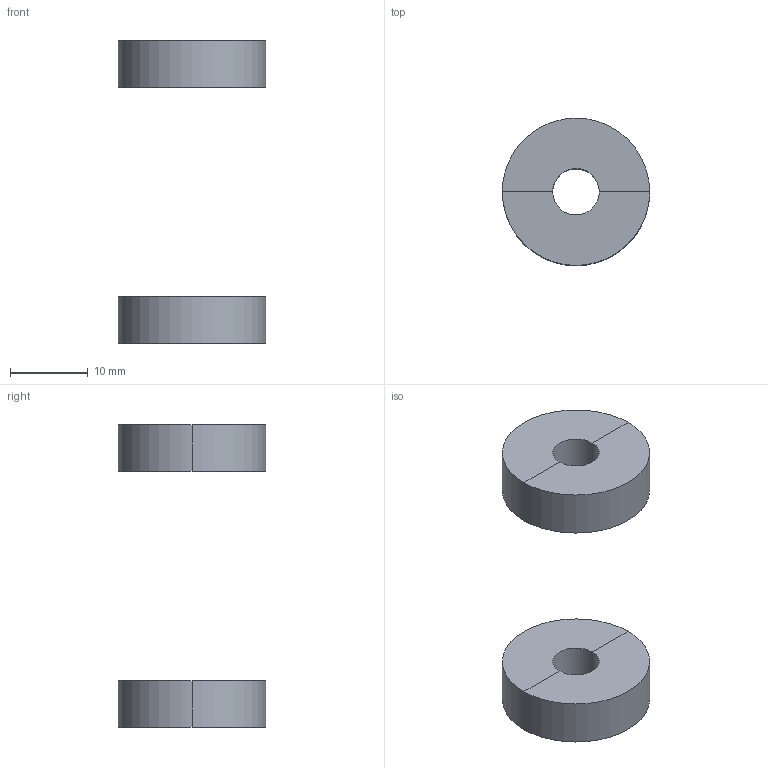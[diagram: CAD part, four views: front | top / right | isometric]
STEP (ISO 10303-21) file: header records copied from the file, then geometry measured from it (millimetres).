
FILE_DESCRIPTION(/* description */ (''),/* implementation_level */ '2;1');
FILE_NAME(/* name */ 'X-DRIV~2',/* time_stamp */ '2014-02-14T19:45:20+01:00',/* author */ (''),/* organization */ (''),/* preprocessor_version */ 'ST-DEVELOPER v14',/* originating_system */ '',/* authorisation */ '');
FILE_SCHEMA (('AUTOMOTIVE_DESIGN'));
Length unit declared in the file: millimetre
Products named in the file (1): Document
Bounding box: 19 x 19 x 39 mm (x, y, z)
Volume: 3072.6 mm3; surface area: 1964.2 mm2
Topology: 2 solids, 2 shells, 16 faces, 32 edges, 16 vertices
Faces by surface type: bspline 16
Entity records: 989 total; most frequent: CARTESIAN_POINT 545, B_SPLINE_CURVE_WITH_KNOTS 80, ORIENTED_EDGE 64, PCURVE 64, DEFINITIONAL_REPRESENTATION 64, SURFACE_CURVE 32, EDGE_CURVE 32, ADVANCED_FACE 16
